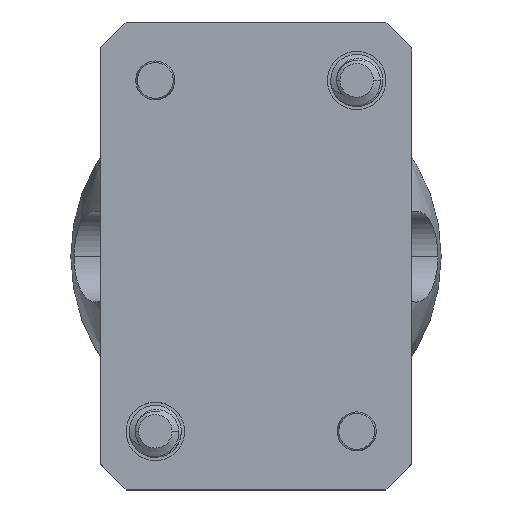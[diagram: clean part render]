
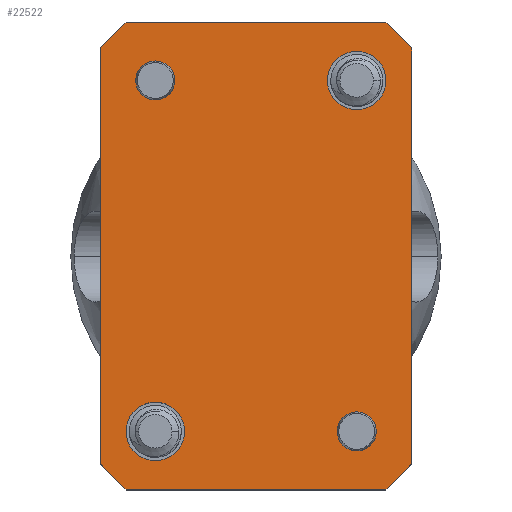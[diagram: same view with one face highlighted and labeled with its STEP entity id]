
A CAD part, top view. The second image highlights one B-rep face of the part: STEP entity #22522.
In plain terms, the highlighted planar face has unit normal (0, 0, 1).
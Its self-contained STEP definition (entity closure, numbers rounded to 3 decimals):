
#99 = CARTESIAN_POINT ( 'NONE',  ( 22.938, 47.314, 97.233 ) ) ;
#314 = VERTEX_POINT ( 'NONE', #20660 ) ;
#1079 = CARTESIAN_POINT ( 'NONE',  ( 40.688, 74.314, 97.233 ) ) ;
#1159 = CARTESIAN_POINT ( 'NONE',  ( 42.688, 78.814, 97.233 ) ) ;
#1266 = VERTEX_POINT ( 'NONE', #10653 ) ;
#1270 = FACE_BOUND ( 'NONE', #21998, .T. ) ;
#1379 = CIRCLE ( 'NONE', #24700, 1.5 ) ;
#1566 = AXIS2_PLACEMENT_3D ( 'NONE', #26512, #14142, #7682 ) ;
#2146 = LINE ( 'NONE', #4395, #19557 ) ;
#2675 = VERTEX_POINT ( 'NONE', #1079 ) ;
#2778 = EDGE_CURVE ( 'NONE', #12558, #15724, #8734, .T. ) ;
#2881 = AXIS2_PLACEMENT_3D ( 'NONE', #99, #23279, #25233 ) ;
#3107 = DIRECTION ( 'NONE',  ( 0., 1., 0. ) ) ;
#3129 = DIRECTION ( 'NONE',  ( 0., 0., -1. ) ) ;
#3148 = DIRECTION ( 'NONE',  ( 1., 0., 0. ) ) ;
#3415 = AXIS2_PLACEMENT_3D ( 'NONE', #25578, #22399, #20288 ) ;
#3653 = CARTESIAN_POINT ( 'NONE',  ( 30.688, 60.814, 97.233 ) ) ;
#3810 = CIRCLE ( 'NONE', #1566, 1.5 ) ;
#3892 = ORIENTED_EDGE ( 'NONE', *, *, #12253, .T. ) ;
#4091 = DIRECTION ( 'NONE',  ( 0.707, -0.707, 0. ) ) ;
#4395 = CARTESIAN_POINT ( 'NONE',  ( 44.688, 46.814, 97.233 ) ) ;
#4636 = EDGE_CURVE ( 'NONE', #14133, #17327, #19915, .T. ) ;
#4799 = CARTESIAN_POINT ( 'NONE',  ( 22.938, 74.314, 97.233 ) ) ;
#5347 = FACE_BOUND ( 'NONE', #10664, .T. ) ;
#5506 = DIRECTION ( 'NONE',  ( -1., 0., 0. ) ) ;
#5683 = ORIENTED_EDGE ( 'NONE', *, *, #17828, .T. ) ;
#5738 = CARTESIAN_POINT ( 'NONE',  ( 42.688, 76.814, 97.233 ) ) ;
#5802 = VERTEX_POINT ( 'NONE', #5738 ) ;
#5838 = ORIENTED_EDGE ( 'NONE', *, *, #12072, .T. ) ;
#5909 = DIRECTION ( 'NONE',  ( 1., 0., 0. ) ) ;
#5998 = CARTESIAN_POINT ( 'NONE',  ( 24.438, 74.314, 97.233 ) ) ;
#6354 = VERTEX_POINT ( 'NONE', #8288 ) ;
#6584 = CIRCLE ( 'NONE', #10171, 2.25 ) ;
#6790 = ORIENTED_EDGE ( 'NONE', *, *, #21402, .T. ) ;
#6903 = CARTESIAN_POINT ( 'NONE',  ( 36.188, 74.314, 97.233 ) ) ;
#7304 = EDGE_CURVE ( 'NONE', #20474, #314, #3810, .T. ) ;
#7575 = EDGE_CURVE ( 'NONE', #314, #20474, #8751, .T. ) ;
#7588 = DIRECTION ( 'NONE',  ( 0., 0., 1. ) ) ;
#7682 = DIRECTION ( 'NONE',  ( 1., 0., 0. ) ) ;
#7713 = CARTESIAN_POINT ( 'NONE',  ( 18.688, 78.814, 97.233 ) ) ;
#7882 = ORIENTED_EDGE ( 'NONE', *, *, #7575, .F. ) ;
#8130 = LINE ( 'NONE', #24985, #27216 ) ;
#8288 = CARTESIAN_POINT ( 'NONE',  ( 42.688, 44.814, 97.233 ) ) ;
#8318 = CARTESIAN_POINT ( 'NONE',  ( 38.438, 74.314, 97.233 ) ) ;
#8382 = VERTEX_POINT ( 'NONE', #25881 ) ;
#8425 = VECTOR ( 'NONE', #4091, 1000. ) ;
#8429 = EDGE_CURVE ( 'NONE', #10033, #6354, #2146, .T. ) ;
#8734 = CIRCLE ( 'NONE', #2881, 2.25 ) ;
#8751 = CIRCLE ( 'NONE', #27125, 1.5 ) ;
#8786 = EDGE_LOOP ( 'NONE', ( #5683, #10031, #6790, #3892, #12933, #15451, #18277, #14662 ) ) ;
#8955 = VERTEX_POINT ( 'NONE', #21317 ) ;
#9727 = LINE ( 'NONE', #1159, #19724 ) ;
#10023 = CARTESIAN_POINT ( 'NONE',  ( 38.438, 74.314, 97.233 ) ) ;
#10031 = ORIENTED_EDGE ( 'NONE', *, *, #8429, .T. ) ;
#10033 = VERTEX_POINT ( 'NONE', #11948 ) ;
#10171 = AXIS2_PLACEMENT_3D ( 'NONE', #10023, #3129, #11707 ) ;
#10423 = ORIENTED_EDGE ( 'NONE', *, *, #21416, .T. ) ;
#10636 = CARTESIAN_POINT ( 'NONE',  ( 18.688, 76.814, 97.233 ) ) ;
#10653 = CARTESIAN_POINT ( 'NONE',  ( 40.688, 78.814, 97.233 ) ) ;
#10664 = EDGE_LOOP ( 'NONE', ( #22384, #19128 ) ) ;
#10710 = DIRECTION ( 'NONE',  ( 0.707, 0.707, 0. ) ) ;
#11050 = ORIENTED_EDGE ( 'NONE', *, *, #7304, .F. ) ;
#11191 = CIRCLE ( 'NONE', #27337, 2.25 ) ;
#11409 = CARTESIAN_POINT ( 'NONE',  ( 39.938, 47.314, 97.233 ) ) ;
#11544 = DIRECTION ( 'NONE',  ( 0., 0., -1. ) ) ;
#11552 = VECTOR ( 'NONE', #5909, 1000. ) ;
#11707 = DIRECTION ( 'NONE',  ( -1., 0., 0. ) ) ;
#11948 = CARTESIAN_POINT ( 'NONE',  ( 40.688, 42.814, 97.233 ) ) ;
#12051 = EDGE_CURVE ( 'NONE', #24464, #8382, #21389, .T. ) ;
#12072 = EDGE_CURVE ( 'NONE', #2675, #17598, #6584, .T. ) ;
#12253 = EDGE_CURVE ( 'NONE', #5802, #1266, #8130, .T. ) ;
#12365 = FACE_BOUND ( 'NONE', #19584, .T. ) ;
#12485 = DIRECTION ( 'NONE',  ( -0.707, 0.707, 0. ) ) ;
#12558 = VERTEX_POINT ( 'NONE', #25296 ) ;
#12933 = ORIENTED_EDGE ( 'NONE', *, *, #25187, .T. ) ;
#13197 = LINE ( 'NONE', #24157, #26457 ) ;
#13902 = PLANE ( 'NONE',  #24279 ) ;
#14133 = VERTEX_POINT ( 'NONE', #10636 ) ;
#14142 = DIRECTION ( 'NONE',  ( 0., 0., 1. ) ) ;
#14457 = CARTESIAN_POINT ( 'NONE',  ( 22.938, 47.314, 97.233 ) ) ;
#14496 = CARTESIAN_POINT ( 'NONE',  ( 20.688, 47.314, 97.233 ) ) ;
#14662 = ORIENTED_EDGE ( 'NONE', *, *, #17805, .T. ) ;
#15059 = DIRECTION ( 'NONE',  ( 0., 0., 1. ) ) ;
#15451 = ORIENTED_EDGE ( 'NONE', *, *, #26574, .T. ) ;
#15724 = VERTEX_POINT ( 'NONE', #14496 ) ;
#16391 = EDGE_LOOP ( 'NONE', ( #10423, #5838 ) ) ;
#16612 = VECTOR ( 'NONE', #20100, 1000. ) ;
#16719 = CARTESIAN_POINT ( 'NONE',  ( 16.688, 46.814, 97.233 ) ) ;
#16859 = LINE ( 'NONE', #18833, #11552 ) ;
#17327 = VERTEX_POINT ( 'NONE', #24620 ) ;
#17598 = VERTEX_POINT ( 'NONE', #6903 ) ;
#17805 = EDGE_CURVE ( 'NONE', #17327, #25866, #21084, .T. ) ;
#17828 = EDGE_CURVE ( 'NONE', #25866, #10033, #16859, .T. ) ;
#17845 = LINE ( 'NONE', #7713, #16612 ) ;
#18277 = ORIENTED_EDGE ( 'NONE', *, *, #4636, .T. ) ;
#18833 = CARTESIAN_POINT ( 'NONE',  ( 18.688, 42.814, 97.233 ) ) ;
#19128 = ORIENTED_EDGE ( 'NONE', *, *, #26119, .F. ) ;
#19557 = VECTOR ( 'NONE', #10710, 1000. ) ;
#19584 = EDGE_LOOP ( 'NONE', ( #25888, #19588 ) ) ;
#19588 = ORIENTED_EDGE ( 'NONE', *, *, #2778, .T. ) ;
#19724 = VECTOR ( 'NONE', #3107, 1000. ) ;
#19915 = LINE ( 'NONE', #24131, #20815 ) ;
#20100 = DIRECTION ( 'NONE',  ( -1., 0., 0. ) ) ;
#20288 = DIRECTION ( 'NONE',  ( 1., 0., 0. ) ) ;
#20474 = VERTEX_POINT ( 'NONE', #11409 ) ;
#20660 = CARTESIAN_POINT ( 'NONE',  ( 36.938, 47.314, 97.233 ) ) ;
#20815 = VECTOR ( 'NONE', #24257, 1000. ) ;
#21084 = LINE ( 'NONE', #16719, #8425 ) ;
#21317 = CARTESIAN_POINT ( 'NONE',  ( 20.688, 78.814, 97.233 ) ) ;
#21389 = CIRCLE ( 'NONE', #3415, 1.5 ) ;
#21402 = EDGE_CURVE ( 'NONE', #6354, #5802, #9727, .T. ) ;
#21416 = EDGE_CURVE ( 'NONE', #17598, #2675, #11191, .T. ) ;
#21998 = EDGE_LOOP ( 'NONE', ( #11050, #7882 ) ) ;
#22384 = ORIENTED_EDGE ( 'NONE', *, *, #12051, .F. ) ;
#22399 = DIRECTION ( 'NONE',  ( 0., 0., 1. ) ) ;
#22522 = ADVANCED_FACE ( 'NONE', ( #5347, #1270, #23053, #12365, #24870 ), #13902, .T. ) ;
#23053 = FACE_BOUND ( 'NONE', #16391, .T. ) ;
#23096 = CIRCLE ( 'NONE', #25776, 2.25 ) ;
#23279 = DIRECTION ( 'NONE',  ( 0., 0., -1. ) ) ;
#24121 = DIRECTION ( 'NONE',  ( 0., 0., 1. ) ) ;
#24131 = CARTESIAN_POINT ( 'NONE',  ( 18.688, 78.814, 97.233 ) ) ;
#24157 = CARTESIAN_POINT ( 'NONE',  ( 16.688, 74.814, 97.233 ) ) ;
#24257 = DIRECTION ( 'NONE',  ( 0., -1., 0. ) ) ;
#24279 = AXIS2_PLACEMENT_3D ( 'NONE', #3653, #7588, #27115 ) ;
#24464 = VERTEX_POINT ( 'NONE', #5998 ) ;
#24514 = CARTESIAN_POINT ( 'NONE',  ( 38.438, 47.314, 97.233 ) ) ;
#24620 = CARTESIAN_POINT ( 'NONE',  ( 18.688, 44.814, 97.233 ) ) ;
#24700 = AXIS2_PLACEMENT_3D ( 'NONE', #4799, #15059, #25878 ) ;
#24752 = DIRECTION ( 'NONE',  ( 0., 0., -1. ) ) ;
#24870 = FACE_OUTER_BOUND ( 'NONE', #8786, .T. ) ;
#24985 = CARTESIAN_POINT ( 'NONE',  ( 44.688, 74.814, 97.233 ) ) ;
#25187 = EDGE_CURVE ( 'NONE', #1266, #8955, #17845, .T. ) ;
#25233 = DIRECTION ( 'NONE',  ( -1., 0., 0. ) ) ;
#25280 = DIRECTION ( 'NONE',  ( -1., 0., 0. ) ) ;
#25296 = CARTESIAN_POINT ( 'NONE',  ( 25.188, 47.314, 97.233 ) ) ;
#25578 = CARTESIAN_POINT ( 'NONE',  ( 22.938, 74.314, 97.233 ) ) ;
#25706 = DIRECTION ( 'NONE',  ( -0.707, -0.707, 0. ) ) ;
#25776 = AXIS2_PLACEMENT_3D ( 'NONE', #14457, #11544, #25280 ) ;
#25866 = VERTEX_POINT ( 'NONE', #26998 ) ;
#25878 = DIRECTION ( 'NONE',  ( 1., 0., 0. ) ) ;
#25881 = CARTESIAN_POINT ( 'NONE',  ( 21.438, 74.314, 97.233 ) ) ;
#25888 = ORIENTED_EDGE ( 'NONE', *, *, #27519, .T. ) ;
#26119 = EDGE_CURVE ( 'NONE', #8382, #24464, #1379, .T. ) ;
#26457 = VECTOR ( 'NONE', #25706, 1000. ) ;
#26512 = CARTESIAN_POINT ( 'NONE',  ( 38.438, 47.314, 97.233 ) ) ;
#26574 = EDGE_CURVE ( 'NONE', #8955, #14133, #13197, .T. ) ;
#26998 = CARTESIAN_POINT ( 'NONE',  ( 20.688, 42.814, 97.233 ) ) ;
#27115 = DIRECTION ( 'NONE',  ( 1., 0., 0. ) ) ;
#27125 = AXIS2_PLACEMENT_3D ( 'NONE', #24514, #24121, #3148 ) ;
#27216 = VECTOR ( 'NONE', #12485, 1000. ) ;
#27337 = AXIS2_PLACEMENT_3D ( 'NONE', #8318, #24752, #5506 ) ;
#27519 = EDGE_CURVE ( 'NONE', #15724, #12558, #23096, .T. ) ;
